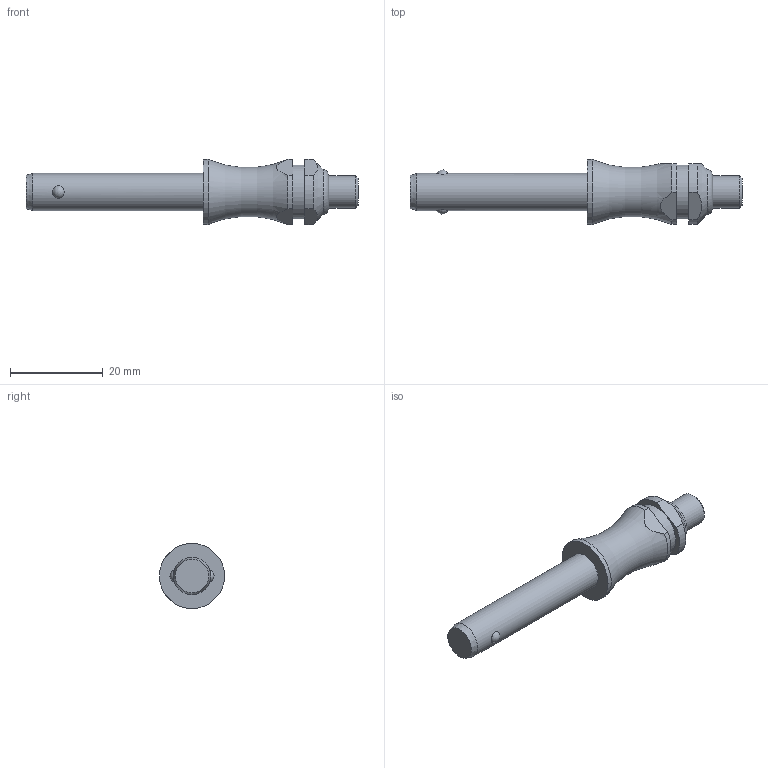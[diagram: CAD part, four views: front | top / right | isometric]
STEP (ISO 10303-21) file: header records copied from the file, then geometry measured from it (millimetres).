
FILE_DESCRIPTION( ( 'STEP AP203' ), '1' );
FILE_NAME( 'C:/Temp/Ganter_Step_05_03_2020/data/3_1/gn113_3/Stainless Steel-Ball lock pin GN 113.3-8-30 (deactivated).stp', '2020-03-12T08:18:24', ( 'License CC BY-ND 4.0' ), ( 'CADENAS' ), ' ', 'PARTsolutions', ' ' );
FILE_SCHEMA( ( 'CONFIG_CONTROL_DESIGN' ) );
Length unit declared in the file: millimetre
Products named in the file (1): _Stainless Steel-Ball lock pin GN 113.3-8-30 (deactivated)
Bounding box: 71.5 x 14 x 14 mm (x, y, z)
Volume: 5139.9 mm3; surface area: 2417.4 mm2
Topology: 1 solids, 1 shells, 28 faces, 60 edges, 39 vertices
Faces by surface type: plane 11, cylinder 10, cone 3, torus 2, sphere 2
Full cylindrical faces by diameter (mm): 7 x1, 8 x1, 11.6 x1, 14 x1
Entity records: 916 total; most frequent: CARTESIAN_POINT 303, DIRECTION 122, ORIENTED_EDGE 98, AXIS2_PLACEMENT_3D 52, EDGE_CURVE 49, EDGE_LOOP 42, VERTEX_POINT 37, FACE_OUTER_BOUND 34
